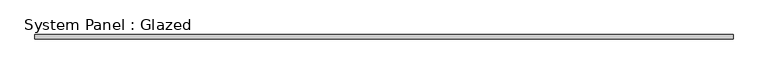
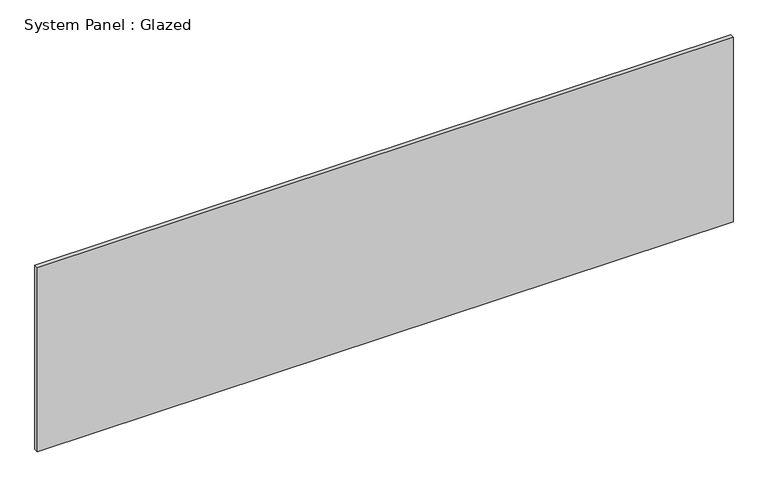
"""IFC4 building model written with IfcOpenShell, lengths in millimetres: plate geometry, System Panel : Glazed."""

from ifc_helpers import new_model, si_unit, origin, origin_with_axes, place, context, project, spatial, polyline, outline, extrude, source, transform, mapped, element, save


def system_panel_glazed_cf4d7c03(model_context):
    return source(origin(), model_context, "Body", "SweptSolid", [
        extrude(outline(polyline([(1962.5, 24.5), (-1962.5, 24.5), (-1962.5, 49.5), (1962.5, 49.5), (1962.5, 24.5)])), origin_with_axes(), (0.0, 0.0, 1.0), 1098.2453384),
    ])


if __name__ == "__main__":
    model = new_model("IFC4")
    model_context = context("Model", 3, world=origin())
    ifc_project = project(units=[si_unit("LENGTHUNIT", "METRE", prefix="MILLI")], contexts=[model_context])
    site = spatial("IfcSite", under=ifc_project)
    building = spatial("IfcBuilding", under=site)
    placement = place(None, origin())
    system_panel_glazed_shape = system_panel_glazed_cf4d7c03(model_context)
    element("IfcPlate", 1, ObjectType="System Panel : Glazed", at=placement, inside=building, context=model_context, shape_type="MappedRepresentation", body=[
        mapped(system_panel_glazed_shape, transform((0.0, 0.0, 0.0), x_axis=(1.0, 0.0, 0.0), y_axis=(0.0, 1.0, 0.0), z_axis=(0.0, 0.0, 1.0))),
    ])
    save(model, "model.ifc")
